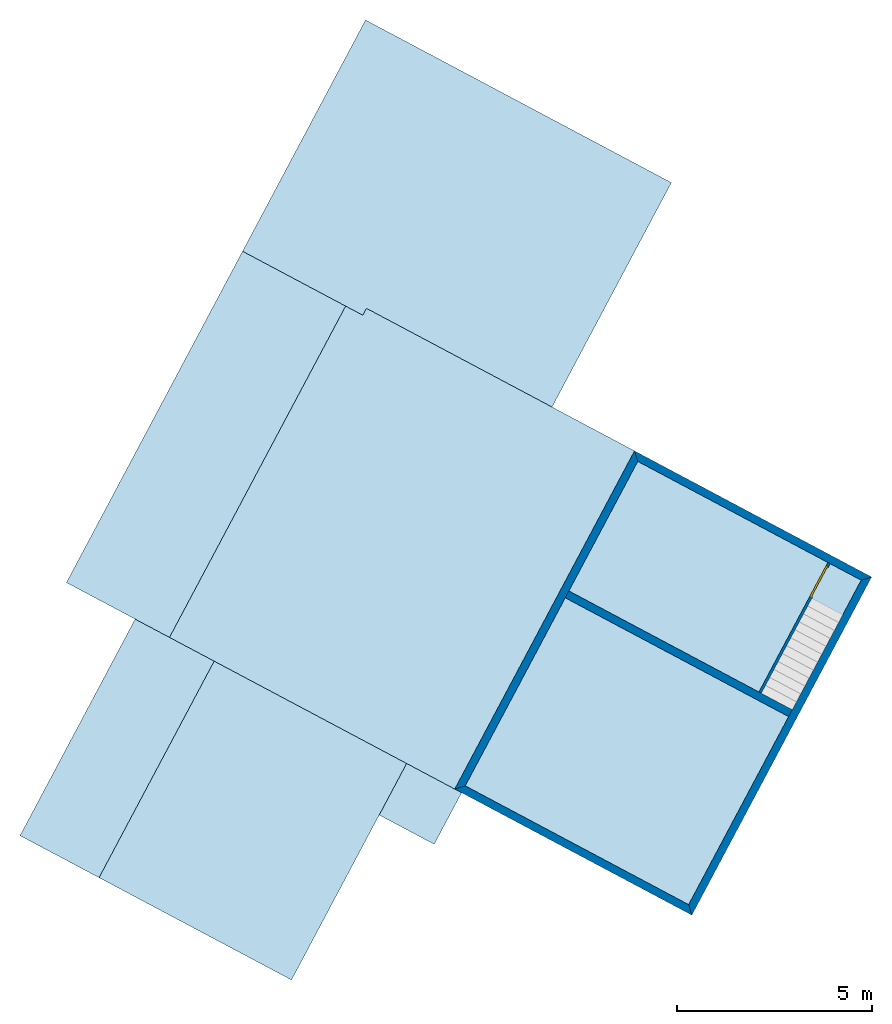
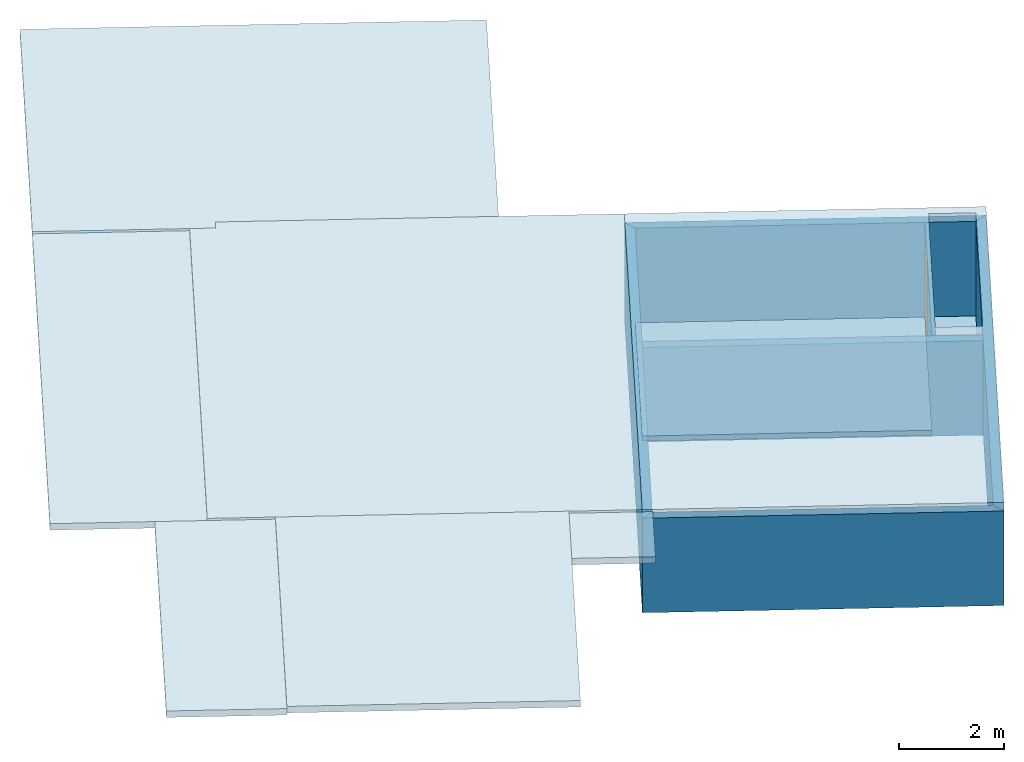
# One storey, part 1 of 2: 10 slabs, 6 walls, 1 door, 1 opening.
"""IFC2X3 building model written with IfcOpenShell, lengths in metres."""

from ifc_helpers import new_model, entity, si_unit, converted_unit, derived_unit, money_unit, direction, frame, origin_with_axes, origin_2d_with_axis, place, context, subcontext, project, spatial, polyline, rectangle, outline, extrude, faceted_brep, source, transform, mapped, material, layer, layer_set, layer_usage, type_object, element, fill, save


model = new_model("IFC2X3")

# Units and contexts
model_context = context("Model", 3, precision=1e-05, world=origin_with_axes(), true_north=direction((0.0, 1.0)))
body_context = subcontext(model_context, "Body", "Model", "MODEL_VIEW")
ifc_project = project(units=[si_unit("LENGTHUNIT", "METRE"), si_unit("AREAUNIT", "SQUARE_METRE"), si_unit("VOLUMEUNIT", "CUBIC_METRE"), converted_unit("PLANEANGLEUNIT", "DEGREE", entity("IfcPlaneAngleMeasure", 0.0174532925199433), si_unit("PLANEANGLEUNIT", "RADIAN"), dimensions=[0, 0, 0, 0, 0, 0, 0]), money_unit("CHF"), converted_unit("TIMEUNIT", "Year", entity("IfcTimeMeasure", 31557600.0), si_unit("TIMEUNIT", "SECOND"), dimensions=[0, 0, 1, 0, 0, 0, 0]), si_unit("MASSUNIT", "GRAM", prefix="KILO"), si_unit("THERMODYNAMICTEMPERATUREUNIT", "DEGREE_CELSIUS"), si_unit("LUMINOUSINTENSITYUNIT", "LUMEN"), si_unit("ENERGYUNIT", "JOULE", prefix="MEGA"), derived_unit("THERMALCONDUCTANCEUNIT", [(si_unit("POWERUNIT", "WATT"), 1), (si_unit("LENGTHUNIT", "METRE"), -1), (si_unit("THERMODYNAMICTEMPERATUREUNIT", "KELVIN"), -1)]), derived_unit("SPECIFICHEATCAPACITYUNIT", [(si_unit("ENERGYUNIT", "JOULE"), 1), (si_unit("MASSUNIT", "GRAM", prefix="KILO"), -1), (si_unit("THERMODYNAMICTEMPERATUREUNIT", "KELVIN"), -1)]), derived_unit("MASSDENSITYUNIT", [(si_unit("MASSUNIT", "GRAM", prefix="KILO"), 1), (si_unit("VOLUMEUNIT", "CUBIC_METRE"), -1)])], contexts=[model_context])

# Site, building, storey
site_placement = place(None, frame((0.0, 0.0, 0.0), z_axis=(0.0, 0.0, 1.0), x_axis=(-0.4694715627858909, -0.8829475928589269, 0.0)))
site = spatial("IfcSite", under=ifc_project, at=site_placement, Name="Site", CompositionType="ELEMENT")
building_placement = place(site_placement, origin_with_axes())
building = spatial("IfcBuilding", under=site, at=building_placement, Name="Bâtiment", CompositionType="ELEMENT")
storey_placement = place(building_placement, frame((0.0, 0.0, -2.5), z_axis=(0.0, 0.0, 1.0), x_axis=(1.0, 0.0, 0.0)))
storey = spatial("IfcBuildingStorey", under=building, at=storey_placement, Name="CAVE", CompositionType="ELEMENT", Elevation=-2.5)

# Slabs
ifc_material_1 = material(Name="Hachure vide 3286431593")
ifc_layer_1 = layer(ifc_material_1, 0.12, ventilated="UNKNOWN")
ifc_layer_set_1 = layer_set([ifc_layer_1], Name="Hachure vide 3286431593 0.12")
ifc_layer_usage_1 = layer_usage(ifc_layer_set_1, "AXIS3", "NEGATIVE", 0.12)
slab_type_1 = type_object("IfcSlabType", Name="Hachure vide 3286431593 120", PredefinedType="FLOOR")
slab_1_placement = place(storey_placement, frame((133.8895710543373, -828.6945990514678, 0.09999999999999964), z_axis=(0.0, 0.0, 1.0), x_axis=(1.0, 0.0, 0.0)))
element("IfcSlab", 1, at=slab_1_placement, inside=storey, type_object=slab_type_1, material=ifc_layer_usage_1, Name="terre plein", PredefinedType="FLOOR", context=body_context, shape_type="SweptSolid", body=[
    extrude(outline(polyline([(0.0, 0.0), (3.76923081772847, 0.0), (3.76923081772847, 5.529999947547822), (0.0, 5.529999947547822), (0.0, 0.7048487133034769), (0.0, 0.0)])), frame((0.0, 0.0, -0.12), z_axis=(0.0, 0.0, 1.0), x_axis=(1.0, 0.0, 0.0)), (0.0, 0.0, 1.0), 0.12),
])
ifc_layer_usage_2 = layer_usage(ifc_layer_set_1, "AXIS3", "NEGATIVE", 0.12)
slab_2_placement = place(storey_placement, frame((133.8895710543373, -828.6945990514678, 0.09999999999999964), z_axis=(0.0, 0.0, 1.0), x_axis=(1.0, 0.0, 0.0)))
element("IfcSlab", 2, at=slab_2_placement, inside=storey, type_object=slab_type_1, material=ifc_layer_usage_2, Name="terre plein", PredefinedType="FLOOR", context=body_context, shape_type="SweptSolid", body=[
    extrude(outline(polyline([(0.0, 0.0), (3.76923081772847, 0.0), (3.76923081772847, 5.529999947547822), (0.0, 5.529999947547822), (0.0, 0.7048487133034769), (0.0, 0.0)])), frame((0.0, 0.0, -0.12), z_axis=(0.0, 0.0, 1.0), x_axis=(1.0, 0.0, 0.0)), (0.0, 0.0, 1.0), 0.12),
])
ifc_layer_usage_3 = layer_usage(ifc_layer_set_1, "AXIS3", "NEGATIVE", 0.12)
slab_3_placement = place(storey_placement, frame((133.8895710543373, -822.1945991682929, 0.09999999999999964), z_axis=(0.0, 0.0, 1.0), x_axis=(1.0, 0.0, 0.0)))
element("IfcSlab", 3, at=slab_3_placement, inside=storey, type_object=slab_type_1, material=ifc_layer_usage_3, Name="terre plein", PredefinedType="FLOOR", context=body_context, shape_type="SweptSolid", body=[
    extrude(outline(polyline([(0.0, 0.0), (0.0, -6.499999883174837), (3.769230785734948, -6.499999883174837), (3.769230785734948, 0.0), (0.0, 0.0)])), frame((0.0, 0.0, -0.12), z_axis=(0.0, 0.0, 1.0), x_axis=(1.0, 0.0, 0.0)), (0.0, 0.0, 1.0), 0.12),
])
ifc_layer_2 = layer(ifc_material_1, 0.2, ventilated="UNKNOWN")
ifc_layer_set_2 = layer_set([ifc_layer_2], Name="Hachure vide 3286431593 0.2")
ifc_layer_usage_4 = layer_usage(ifc_layer_set_2, "AXIS3", "NEGATIVE", 0.2)
slab_type_2 = type_object("IfcSlabType", Name="Hachure vide 3286431593 200", PredefinedType="FLOOR")
slab_4_placement = place(storey_placement, frame((133.6895710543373, -828.8945990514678, 2.5), z_axis=(0.0, 0.0, 1.0), x_axis=(1.0, 0.0, 0.0)))
element("IfcSlab", 4, at=slab_4_placement, inside=storey, type_object=slab_type_2, material=ifc_layer_usage_4, Name="terre plein", PredefinedType="FLOOR", context=body_context, shape_type="SweptSolid", body=[
    extrude(outline(polyline([(0.0, 0.0), (9.840000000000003, 0.0), (9.840000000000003, 6.89999994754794), (0.0, 6.89999994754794), (0.0, 0.0)]), holes=[polyline([(3.969230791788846, 5.799999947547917), (0.1999999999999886, 5.799999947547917), (0.1999999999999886, 6.699999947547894), (3.969230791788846, 6.699999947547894), (3.969230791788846, 5.799999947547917)])]), frame((0.0, 0.0, -0.2), z_axis=(0.0, 0.0, 1.0), x_axis=(1.0, 0.0, 0.0)), (0.0, 0.0, 1.0), 0.2),
])
ifc_layer_3 = layer(ifc_material_1, 0.1499999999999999, ventilated="UNKNOWN")
ifc_layer_set_3 = layer_set([ifc_layer_3], Name="Hachure vide 3286431593 0.15")
ifc_layer_usage_5 = layer_usage(ifc_layer_set_3, "AXIS3", "NEGATIVE", 0.1499999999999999)
slab_type_3 = type_object("IfcSlabType", Name="Hachure vide 3286431593 150", PredefinedType="FLOOR")
slab_5_placement = place(storey_placement, frame((143.5295710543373, -830.29459910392, 2.45), z_axis=(0.0, 0.0, 1.0), x_axis=(1.0, 0.0, 0.0)))
element("IfcSlab", 5, at=slab_5_placement, inside=storey, type_object=slab_type_3, material=ifc_layer_usage_5, Name="terre plein", PredefinedType="FLOOR", context=body_context, shape_type="SweptSolid", body=[
    extrude(outline(polyline([(0.0, 0.0), (1.5, 0.0), (1.5, 1.600000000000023), (0.0, 1.600000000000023), (0.0, 0.0)])), frame((0.0, 0.0, -0.1499999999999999), z_axis=(0.0, 0.0, 1.0), x_axis=(1.0, 0.0, 0.0)), (0.0, 0.0, 1.0), 0.1499999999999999),
])
ifc_layer_usage_6 = layer_usage(ifc_layer_set_3, "AXIS3", "NEGATIVE", 0.1499999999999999)
slab_6_placement = place(storey_placement, frame((149.8295710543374, -835.89459910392, 2.45), z_axis=(0.0, 0.0, 1.0), x_axis=(1.0, 0.0, 0.0)))
element("IfcSlab", 6, at=slab_6_placement, inside=storey, type_object=slab_type_3, material=ifc_layer_usage_6, Name="terre plein", PredefinedType="FLOOR", context=body_context, shape_type="SweptSolid", body=[
    extrude(outline(polyline([(0.0, 0.0), (-6.300000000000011, 0.0), (-6.300000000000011, -2.299999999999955), (0.0, -2.299999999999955), (0.0, 0.0)])), frame((0.0, 0.0, -0.1499999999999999), z_axis=(0.0, 0.0, 1.0), x_axis=(1.0, 0.0, 0.0)), (0.0, 0.0, 1.0), 0.1499999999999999),
])
ifc_layer_usage_7 = layer_usage(ifc_layer_set_3, "AXIS3", "NEGATIVE", 0.1499999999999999)
slab_7_placement = place(storey_placement, frame((133.8895710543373, -840.1945991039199, 2.45), z_axis=(0.0, 0.0, 1.0), x_axis=(1.0, 0.0, 0.0)))
element("IfcSlab", 7, at=slab_7_placement, inside=storey, type_object=slab_type_3, material=ifc_layer_usage_7, Name="terre plein", PredefinedType="FLOOR", context=body_context, shape_type="SweptSolid", body=[
    extrude(outline(polyline([(0.0, 0.0), (9.640000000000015, 0.0), (9.640000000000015, 3.0), (0.0, 3.0), (0.0, 0.0)])), frame((0.0, 0.0, -0.1499999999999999), z_axis=(0.0, 0.0, 1.0), x_axis=(1.0, 0.0, 0.0)), (0.0, 0.0, 1.0), 0.1499999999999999),
])
ifc_layer_usage_8 = layer_usage(ifc_layer_set_3, "AXIS3", "NEGATIVE", 0.1499999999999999)
slab_8_placement = place(storey_placement, frame((127.1595710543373, -831.29459910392, 2.5), z_axis=(0.0, 0.0, 1.0), x_axis=(1.0, 0.0, 0.0)))
element("IfcSlab", 8, at=slab_8_placement, inside=storey, type_object=slab_type_3, material=ifc_layer_usage_8, Name="terre plein", PredefinedType="FLOOR", context=body_context, shape_type="SweptSolid", body=[
    extrude(outline(polyline([(0.0, 0.0), (0.0, -8.899999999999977), (6.72999999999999, -8.899999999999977), (6.729999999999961, -5.399999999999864), (6.530000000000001, -5.399999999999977), (6.529999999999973, 0.0), (0.0, 0.0)])), frame((0.0, 0.0, -0.1499999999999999), z_axis=(0.0, 0.0, 1.0), x_axis=(1.0, 0.0, 0.0)), (0.0, 0.0, 1.0), 0.1499999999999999),
])
ifc_layer_usage_9 = layer_usage(ifc_layer_set_3, "AXIS3", "NEGATIVE", 0.1499999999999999)
slab_9_placement = place(storey_placement, frame((143.5295710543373, -830.29459910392, 2.5), z_axis=(0.0, 0.0, 1.0), x_axis=(1.0, 0.0, 0.0)))
element("IfcSlab", 9, at=slab_9_placement, inside=storey, type_object=slab_type_3, material=ifc_layer_usage_9, Name="terre plein", PredefinedType="FLOOR", context=body_context, shape_type="SweptSolid", body=[
    extrude(outline(polyline([(0.0, 0.0), (0.0, -5.600000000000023), (6.300000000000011, -5.600000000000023), (6.300000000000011, 0.0), (0.0, 0.0)])), frame((0.0, 0.0, -0.1499999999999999), z_axis=(0.0, 0.0, 1.0), x_axis=(1.0, 0.0, 0.0)), (0.0, 0.0, 1.0), 0.1499999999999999),
])
ifc_layer_usage_10 = layer_usage(ifc_layer_set_3, "AXIS3", "NEGATIVE", 0.1499999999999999)
slab_10_placement = place(storey_placement, frame((133.6895710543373, -828.8945990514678, 2.5), z_axis=(0.0, 0.0, 1.0), x_axis=(1.0, 0.0, 0.0)))
element("IfcSlab", 10, at=slab_10_placement, inside=storey, type_object=slab_type_3, material=ifc_layer_usage_10, Name="terre plein", PredefinedType="FLOOR", context=body_context, shape_type="SweptSolid", body=[
    extrude(outline(polyline([(0.0, 0.0), (0.0, -8.300000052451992), (9.840000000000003, -8.300000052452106), (9.840000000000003, 0.0), (0.0, 0.0)])), frame((0.0, 0.0, -0.1499999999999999), z_axis=(0.0, 0.0, 1.0), x_axis=(1.0, 0.0, 0.0)), (0.0, 0.0, 1.0), 0.1499999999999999),
])

# Wall, opening, door
ifc_material_2 = material(Name="Isolation 269295175")
ifc_layer_4 = layer(ifc_material_2, 0.07, ventilated="UNKNOWN")
ifc_layer_set_4 = layer_set([ifc_layer_4], Name="CLOISON 7")
ifc_layer_usage_11 = layer_usage(ifc_layer_set_4, "AXIS2", "POSITIVE", 0.0)
wall_type_1 = type_object("IfcWallType", Name="CLOISON 7 70", PredefinedType="NOTDEFINED")
wall_1_placement = place(storey_placement, frame((137.8588018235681, -823.0945991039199, 0.09999999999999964), z_axis=(0.0, 0.0, 1.0), x_axis=(-1.0, 0.0, 0.0)))
wall_1 = element("IfcWallStandardCase", 11, at=wall_1_placement, inside=storey, type_object=wall_type_1, material=ifc_layer_usage_11, Name="Mur-396", context=body_context, shape_type="SweptSolid", body=[
    extrude(outline(polyline([(0.1999999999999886, 0.0), (3.969230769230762, 0.0), (3.969230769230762, 0.07000000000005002), (0.1999999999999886, 0.07000000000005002), (0.1999999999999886, 0.0)])), origin_with_axes(), (0.0, 0.0, 1.0), 2.2),
])
opening_placement = place(wall_1_placement, frame((3.424230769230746, 0.0, 0.0), z_axis=(0.0, 0.0, 1.0), x_axis=(1.0, 0.0, 0.0)))
opening = element("IfcOpeningElement", 12, at=opening_placement, cuts=wall_1, Name="porte 77", context=body_context, shape_type="SweptSolid", body=[
    extrude(rectangle(XDim=0.910000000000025, YDim=2.09, at=origin_2d_with_axis()), frame((0.0, -0.07000000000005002, 1.045), z_axis=(0.0, 1.0, 0.0), x_axis=(1.0, 0.0, 0.0)), (0.0, 0.0, 1.0), 0.21),
])
door_style = type_object("IfcDoorStyle", Name="P_int simple à carreaux 10", ConstructionType="NOTDEFINED", OperationType="SINGLE_SWING_RIGHT", ParameterTakesPrecedence=False, Sizeable=False)
shared_shape = source(origin_with_axes(), body_context, "Body", "Brep", [
    faceted_brep([(-0.423, -0.044, 0.0), (-0.423, -0.044, 2.058), (-0.423, -0.07, 2.058), (-0.423, -0.07, 0.0), (-0.4350000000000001, -0.044, 2.058), (-0.4350000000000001, -0.044, 0.0), (-0.4350000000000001, 0.0, 2.058), (-0.4550000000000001, 0.0, 2.058), (-0.4550000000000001, -0.07, 2.058), (-0.4550000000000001, -0.07, 0.0), (-0.4550000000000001, 0.0, 0.0), (-0.4350000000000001, 0.0, 0.0)], [[[0, 1, 2, 3]], [[4, 1, 0, 5]], [[4, 6, 7, 8, 2, 1]], [[2, 8, 9, 3]], [[5, 0, 3, 9, 10, 11]], [[6, 4, 5, 11]], [[6, 11, 10, 7]], [[10, 9, 8, 7]]]),
    faceted_brep([(0.4350000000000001, -0.044, 2.058), (0.423, -0.044, 2.058), (0.423, -0.07, 2.058), (0.4550000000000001, -0.07, 2.058), (0.4550000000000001, 0.0, 2.058), (0.4350000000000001, 0.0, 2.058), (0.4350000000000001, -0.044, 0.0), (0.423, -0.044, 0.0), (0.423, -0.07, 0.0), (0.4550000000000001, -0.07, 0.0), (0.4550000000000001, 0.0, 0.0), (0.4350000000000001, 0.0, 0.0)], [[[0, 1, 2, 3, 4, 5]], [[1, 0, 6, 7]], [[1, 7, 8, 2]], [[3, 2, 8, 9]], [[4, 3, 9, 10]], [[11, 5, 4, 10]], [[0, 5, 11, 6]], [[6, 11, 10, 9, 8, 7]]]),
    faceted_brep([(-0.4350000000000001, 0.0, 2.07), (-0.4350000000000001, 0.0, 2.058), (-0.455, 0.0, 2.058), (-0.455, 0.0, 2.09), (0.455, 0.0, 2.09), (0.455, 0.0, 2.058), (0.4350000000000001, 0.0, 2.058), (0.4350000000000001, 0.0, 2.07), (-0.4350000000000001, -0.044, 2.07), (-0.4350000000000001, -0.044, 2.058), (-0.423, -0.044, 2.058), (-0.423, -0.07, 2.058), (-0.455, -0.07, 2.058), (-0.455, -0.07, 2.09), (0.455, -0.07, 2.09), (0.455, -0.07, 2.058), (0.4350000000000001, -0.044, 2.058), (0.423, -0.07, 2.058), (0.423, -0.044, 2.058), (0.4350000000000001, -0.044, 2.07)], [[[0, 1, 2, 3, 4, 5, 6, 7]], [[1, 0, 8, 9]], [[9, 10, 11, 12, 2, 1]], [[2, 12, 13, 3]], [[3, 13, 14, 4]], [[4, 14, 15, 5]], [[16, 6, 5, 15, 17, 18]], [[7, 6, 16, 19]], [[0, 7, 19, 8]], [[16, 18, 10, 9, 8, 19]], [[10, 18, 17, 11]], [[17, 15, 14, 13, 12, 11]]]),
    faceted_brep([(-0.1, -0.044, 0.0), (-0.1, -0.04400000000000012, 2.07), (-0.435, -0.04400000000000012, 2.07), (-0.435, -0.044, 0.0), (-0.1, 0.0, 2.07), (-0.1, 0.0, 0.0), (-0.435, 0.0, 2.07), (-0.435, 0.0, 0.0)], [[[0, 1, 2, 3]], [[4, 1, 0, 5]], [[1, 4, 6, 2]], [[3, 2, 6, 7]], [[5, 0, 3, 7]], [[4, 5, 7, 6]]]),
    faceted_brep([(0.1, 0.0, 2.07), (0.1, -0.04400000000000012, 2.07), (0.435, -0.04400000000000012, 2.07), (0.435, 0.0, 2.07), (0.1, -0.044, 0.0), (0.1, 0.0, 0.0), (0.435, -0.044, 0.0), (0.435, 0.0, 0.0)], [[[0, 1, 2, 3]], [[4, 1, 0, 5]], [[1, 4, 6, 2]], [[2, 6, 7, 3]], [[5, 0, 3, 7]], [[4, 5, 7, 6]]]),
    faceted_brep([(-0.1, 0.0, 1.87), (-0.1, -0.044, 1.87), (-0.1, -0.044, 2.07), (-0.1, 0.0, 2.07), (0.1, 0.0, 1.87), (0.1, -0.044, 1.87), (0.1, -0.044, 2.07), (0.1, 0.0, 2.07)], [[[0, 1, 2, 3]], [[4, 5, 1, 0]], [[1, 5, 6, 2]], [[3, 2, 6, 7]], [[0, 3, 7, 4]], [[7, 6, 5, 4]]]),
    faceted_brep([(-0.1, 0.0, 1.67), (-0.1, -0.044, 1.67), (-0.1, -0.044, 1.87), (-0.1, 0.0, 1.87), (0.1, 0.0, 1.67), (0.1, -0.044, 1.67), (0.1, -0.044, 1.87), (0.1, 0.0, 1.87)], [[[0, 1, 2, 3]], [[4, 5, 1, 0]], [[1, 5, 6, 2]], [[3, 2, 6, 7]], [[0, 3, 7, 4]], [[7, 6, 5, 4]]]),
    faceted_brep([(-0.1, 0.0, 1.47), (-0.1, -0.044, 1.47), (-0.1, -0.044, 1.67), (-0.1, 0.0, 1.67), (0.1, 0.0, 1.47), (0.1, -0.044, 1.47), (0.1, -0.044, 1.67), (0.1, 0.0, 1.67)], [[[0, 1, 2, 3]], [[4, 5, 1, 0]], [[1, 5, 6, 2]], [[3, 2, 6, 7]], [[0, 3, 7, 4]], [[7, 6, 5, 4]]]),
    faceted_brep([(-0.1, 0.0, 1.27), (-0.1, -0.044, 1.27), (-0.1, -0.044, 1.47), (-0.1, 0.0, 1.47), (0.1, 0.0, 1.27), (0.1, -0.044, 1.27), (0.1, -0.044, 1.47), (0.1, 0.0, 1.47)], [[[0, 1, 2, 3]], [[4, 5, 1, 0]], [[1, 5, 6, 2]], [[3, 2, 6, 7]], [[0, 3, 7, 4]], [[7, 6, 5, 4]]]),
    faceted_brep([(-0.1, 0.0, 1.07), (-0.1, -0.044, 1.07), (-0.1, -0.044, 1.27), (-0.1, 0.0, 1.27), (0.1, 0.0, 1.07), (0.1, -0.044, 1.07), (0.1, -0.044, 1.27), (0.1, 0.0, 1.27)], [[[0, 1, 2, 3]], [[4, 5, 1, 0]], [[1, 5, 6, 2]], [[3, 2, 6, 7]], [[0, 3, 7, 4]], [[7, 6, 5, 4]]]),
    faceted_brep([(-0.1, 0.0, 0.8700000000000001), (-0.1, -0.044, 0.8700000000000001), (-0.1, -0.044, 1.07), (-0.1, 0.0, 1.07), (0.1, 0.0, 0.8700000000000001), (0.1, -0.044, 0.8700000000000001), (0.1, -0.044, 1.07), (0.1, 0.0, 1.07)], [[[0, 1, 2, 3]], [[4, 5, 1, 0]], [[1, 5, 6, 2]], [[3, 2, 6, 7]], [[0, 3, 7, 4]], [[7, 6, 5, 4]]]),
    faceted_brep([(-0.1, 0.0, 0.6700000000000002), (-0.1, -0.044, 0.6700000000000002), (-0.1, -0.044, 0.8700000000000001), (-0.1, 0.0, 0.8700000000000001), (0.1, 0.0, 0.6700000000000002), (0.1, -0.044, 0.6700000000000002), (0.1, -0.044, 0.8700000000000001), (0.1, 0.0, 0.8700000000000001)], [[[0, 1, 2, 3]], [[4, 5, 1, 0]], [[1, 5, 6, 2]], [[3, 2, 6, 7]], [[0, 3, 7, 4]], [[7, 6, 5, 4]]]),
    faceted_brep([(-0.1, 0.0, 0.4700000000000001), (-0.1, -0.044, 0.4700000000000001), (-0.1, -0.044, 0.6700000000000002), (-0.1, 0.0, 0.6700000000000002), (0.1, 0.0, 0.4700000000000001), (0.1, -0.044, 0.4700000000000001), (0.1, -0.044, 0.6700000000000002), (0.1, 0.0, 0.6700000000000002)], [[[0, 1, 2, 3]], [[4, 5, 1, 0]], [[1, 5, 6, 2]], [[3, 2, 6, 7]], [[0, 3, 7, 4]], [[7, 6, 5, 4]]]),
    faceted_brep([(-0.1, 0.0, 0.2700000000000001), (-0.1, -0.044, 0.2700000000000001), (-0.1, -0.044, 0.4700000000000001), (-0.1, 0.0, 0.4700000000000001), (0.1, 0.0, 0.2700000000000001), (0.1, -0.044, 0.2700000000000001), (0.1, -0.044, 0.4700000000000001), (0.1, 0.0, 0.4700000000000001)], [[[0, 1, 2, 3]], [[4, 5, 1, 0]], [[1, 5, 6, 2]], [[3, 2, 6, 7]], [[0, 3, 7, 4]], [[7, 6, 5, 4]]]),
    faceted_brep([(-0.1, 0.0, 0.07000000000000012), (-0.1, -0.044, 0.07000000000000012), (-0.1, -0.044, 0.2700000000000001), (-0.1, 0.0, 0.2700000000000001), (0.1, 0.0, 0.07000000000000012), (0.1, -0.044, 0.07000000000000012), (0.1, -0.044, 0.2700000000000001), (0.1, 0.0, 0.2700000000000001)], [[[0, 1, 2, 3]], [[4, 5, 1, 0]], [[1, 5, 6, 2]], [[3, 2, 6, 7]], [[0, 3, 7, 4]], [[7, 6, 5, 4]]]),
    faceted_brep([(-0.1, -0.044, 0.0), (0.1, -0.044, 0.0), (0.1, -0.044, 0.07000000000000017), (-0.1, -0.044, 0.07000000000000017), (0.1, 0.0, 0.0), (-0.1, 0.0, 0.0), (0.1, 0.0, 0.07000000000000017), (-0.1, 0.0, 0.07000000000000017)], [[[0, 1, 2, 3]], [[4, 1, 0, 5]], [[1, 4, 6, 2]], [[3, 2, 6, 7]], [[5, 0, 3, 7]], [[4, 5, 7, 6]]]),
])
door_placement = place(opening_placement, frame((-0.4550000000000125, 0.0, 0.0), z_axis=(0.0, 0.0, 1.0), x_axis=(1.0, 0.0, 0.0)))
door = element("IfcDoor", 13, at=door_placement, inside=storey, type_object=door_style, Name="porte 77", OverallHeight=2.09, OverallWidth=0.91, context=body_context, shape_type="MappedRepresentation", body=[
    mapped(shared_shape, transform((0.4550000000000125, 0.07000000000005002, 0.0))),
])
fill(opening, door)

# Walls
ifc_material_3 = material(Name="Maçonnerie 290464332")
ifc_layer_5 = layer(ifc_material_3, 0.2, ventilated="UNKNOWN")
ifc_layer_set_5 = layer_set([ifc_layer_5], Name="MUR EXT 20")
ifc_layer_usage_12 = layer_usage(ifc_layer_set_5, "AXIS2", "NEGATIVE", 0.0)
wall_type_2 = type_object("IfcWallType", Name="MUR EXT 20 200", PredefinedType="NOTDEFINED")
wall_2_placement = place(storey_placement, frame((133.6895710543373, -828.8945990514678, 0.09999999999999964), z_axis=(0.0, 0.0, 1.0), x_axis=(0.0, 1.0, 0.0)))
element("IfcWallStandardCase", 14, at=wall_2_placement, inside=storey, type_object=wall_type_2, material=ifc_layer_usage_12, Name="Mur-399", context=body_context, shape_type="SweptSolid", body=[
    extrude(outline(polyline([(0.2000000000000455, -0.1999999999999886), (6.699999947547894, -0.1999999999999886), (6.89999994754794, 0.0), (0.0, 0.0), (0.2000000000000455, -0.1999999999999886)])), origin_with_axes(), (0.0, 0.0, 1.0), 2.2),
])
ifc_layer_usage_13 = layer_usage(ifc_layer_set_5, "AXIS2", "NEGATIVE", 0.0)
wall_3_placement = place(storey_placement, frame((143.5295710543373, -828.8945990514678, 0.09999999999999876), z_axis=(0.0, 0.0, 1.0), x_axis=(-1.0, 0.0, 0.0)))
element("IfcWallStandardCase", 15, at=wall_3_placement, inside=storey, type_object=wall_type_2, material=ifc_layer_usage_13, Name="Mur-398", context=body_context, shape_type="SweptSolid", body=[
    extrude(outline(polyline([(0.1999999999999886, -0.2000000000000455), (9.640000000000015, -0.2000000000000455), (9.840000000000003, 0.0), (0.0, 0.0), (0.1999999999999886, -0.2000000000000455)])), origin_with_axes(), (0.0, 0.0, 1.0), 2.2),
])
ifc_layer_usage_14 = layer_usage(ifc_layer_set_5, "AXIS2", "NEGATIVE", 0.0)
wall_4_placement = place(storey_placement, frame((133.6895710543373, -821.9945991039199, 0.09999999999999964), z_axis=(0.0, 0.0, 1.0), x_axis=(1.0, 0.0, 0.0)))
element("IfcWallStandardCase", 16, at=wall_4_placement, inside=storey, type_object=wall_type_2, material=ifc_layer_usage_14, Name="Mur-396", context=body_context, shape_type="SweptSolid", body=[
    extrude(outline(polyline([(0.1999999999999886, -0.2000000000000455), (9.640000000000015, -0.2000000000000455), (9.840000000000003, 0.0), (0.0, 0.0), (0.1999999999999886, -0.2000000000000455)])), origin_with_axes(), (0.0, 0.0, 1.0), 2.2),
])
ifc_layer_usage_15 = layer_usage(ifc_layer_set_5, "AXIS2", "NEGATIVE", 0.0)
wall_5_placement = place(storey_placement, frame((137.8588018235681, -821.9945991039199, 0.09999999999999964), z_axis=(0.0, 0.0, 1.0), x_axis=(0.0, -1.0, 0.0)))
element("IfcWallStandardCase", 17, at=wall_5_placement, inside=storey, type_object=wall_type_2, material=ifc_layer_usage_15, Name="Mur-396", context=body_context, shape_type="SweptSolid", body=[
    extrude(outline(polyline([(0.2000000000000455, -0.1999999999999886), (6.699999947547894, -0.1999999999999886), (6.699999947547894, 0.0), (0.2000000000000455, 0.0), (0.2000000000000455, -0.1999999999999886)])), origin_with_axes(), (0.0, 0.0, 1.0), 2.2),
])
ifc_layer_usage_16 = layer_usage(ifc_layer_set_5, "AXIS2", "NEGATIVE", 0.0)
wall_6_placement = place(storey_placement, frame((143.5295710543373, -821.9945991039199, 0.09999999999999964), z_axis=(0.0, 0.0, 1.0), x_axis=(0.0, -1.0, 0.0)))
element("IfcWallStandardCase", 18, at=wall_6_placement, inside=storey, type_object=wall_type_2, material=ifc_layer_usage_16, Name="Mur-397", context=body_context, shape_type="SweptSolid", body=[
    extrude(outline(polyline([(0.2000000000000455, -0.1999999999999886), (6.699999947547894, -0.1999999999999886), (6.89999994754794, 0.0), (0.0, 0.0), (0.2000000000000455, -0.1999999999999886)])), origin_with_axes(), (0.0, 0.0, 1.0), 2.2),
])

save(model, "model.ifc")
